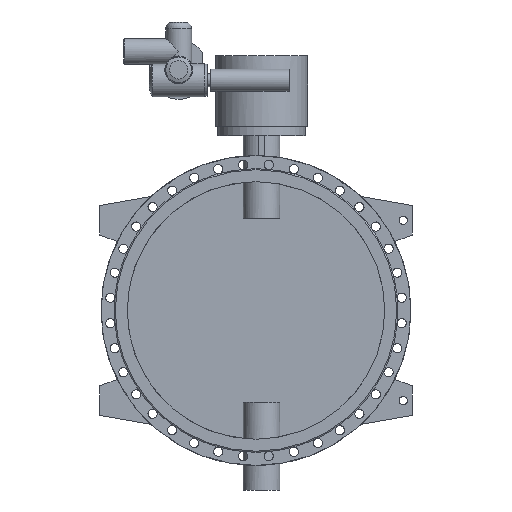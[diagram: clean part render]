
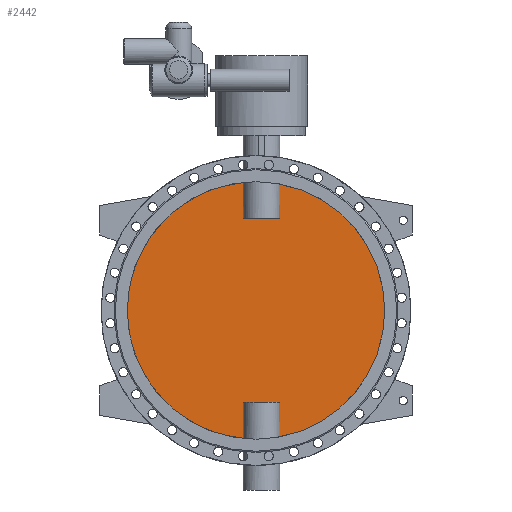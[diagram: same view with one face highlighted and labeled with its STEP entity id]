
A CAD part, front view. The second image highlights one B-rep face of the part: STEP entity #2442.
In plain terms, the highlighted planar face has unit normal (0, -1, 0).
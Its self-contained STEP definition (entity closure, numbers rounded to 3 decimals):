
#2442=ADVANCED_FACE('',(#4989),#4991,.F.);
#4989=FACE_BOUND('',#4990,.T.);
#4990=EDGE_LOOP('',(#6367,#6368,#6369,#6370,#6371,#6372,#6373,#6374));
#4991=PLANE('',#4992);
#4992=AXIS2_PLACEMENT_3D('',#4993,#4994,#4995);
#4993=CARTESIAN_POINT('',(0.,-5.,0.));
#4994=DIRECTION('',(0.,1.,0.));
#4995=DIRECTION('',(1.,0.,0.));
#6367=ORIENTED_EDGE('',*,*,#7057,.T.);
#6368=ORIENTED_EDGE('',*,*,#7062,.T.);
#6369=ORIENTED_EDGE('',*,*,#7063,.T.);
#6370=ORIENTED_EDGE('',*,*,#7064,.T.);
#6371=ORIENTED_EDGE('',*,*,#7059,.T.);
#6372=ORIENTED_EDGE('',*,*,#7065,.T.);
#6373=ORIENTED_EDGE('',*,*,#7066,.T.);
#6374=ORIENTED_EDGE('',*,*,#7067,.T.);
#7057=EDGE_CURVE('',#8243,#8244,#8245,.F.);
#7059=EDGE_CURVE('',#8248,#8246,#8249,.F.);
#7062=EDGE_CURVE('',#8244,#8253,#8254,.T.);
#7063=EDGE_CURVE('',#8253,#8255,#8256,.F.);
#7064=EDGE_CURVE('',#8255,#8248,#8257,.F.);
#7065=EDGE_CURVE('',#8246,#8258,#8259,.F.);
#7066=EDGE_CURVE('',#8258,#8260,#8261,.F.);
#7067=EDGE_CURVE('',#8260,#8243,#8262,.T.);
#8243=VERTEX_POINT('',#12922);
#8244=VERTEX_POINT('',#12923);
#8245=CIRCLE('',#12924,700.);
#8246=VERTEX_POINT('',#12928);
#8248=VERTEX_POINT('',#12990);
#8249=CIRCLE('',#12991,700.);
#8253=VERTEX_POINT('',#13125);
#8254=LINE('',#13126,#13127);
#8255=VERTEX_POINT('',#13129);
#8256=LINE('',#13130,#13131);
#8257=LINE('',#13133,#13134);
#8258=VERTEX_POINT('',#13136);
#8259=LINE('',#13137,#13138);
#8260=VERTEX_POINT('',#13140);
#8261=LINE('',#13141,#13142);
#8262=LINE('',#13144,#13145);
#12922=CARTESIAN_POINT('',(129.875,-5.,-687.846));
#12923=CARTESIAN_POINT('',(129.875,-5.,687.846));
#12924=AXIS2_PLACEMENT_3D('',#12925,#12926,#12927);
#12925=CARTESIAN_POINT('',(0.,-5.,0.));
#12926=DIRECTION('',(0.,1.,0.));
#12927=DIRECTION('',(0.186,0.,0.983));
#12928=CARTESIAN_POINT('',(-69.875,-5.,-696.504));
#12990=CARTESIAN_POINT('',(-69.875,-5.,696.504));
#12991=AXIS2_PLACEMENT_3D('',#12992,#12993,#12994);
#12992=CARTESIAN_POINT('',(0.,-5.,0.));
#12993=DIRECTION('',(0.,1.,0.));
#12994=DIRECTION('',(-0.1,0.,-0.995));
#13125=CARTESIAN_POINT('',(129.875,-5.,500.));
#13126=CARTESIAN_POINT('',(129.875,-5.,687.846));
#13127=VECTOR('',#13128,1.);
#13128=DIRECTION('',(0.,0.,-1.));
#13129=CARTESIAN_POINT('',(-69.875,-5.,500.));
#13130=CARTESIAN_POINT('',(-69.875,-5.,500.));
#13131=VECTOR('',#13132,1.);
#13132=DIRECTION('',(1.,0.,0.));
#13133=CARTESIAN_POINT('',(-69.875,-5.,696.504));
#13134=VECTOR('',#13135,1.);
#13135=DIRECTION('',(0.,0.,-1.));
#13136=CARTESIAN_POINT('',(-69.875,-5.,-500.));
#13137=CARTESIAN_POINT('',(-69.875,-5.,-500.));
#13138=VECTOR('',#13139,1.);
#13139=DIRECTION('',(0.,0.,-1.));
#13140=CARTESIAN_POINT('',(129.875,-5.,-500.));
#13141=CARTESIAN_POINT('',(129.875,-5.,-500.));
#13142=VECTOR('',#13143,1.);
#13143=DIRECTION('',(-1.,0.,0.));
#13144=CARTESIAN_POINT('',(129.875,-5.,-500.));
#13145=VECTOR('',#13146,1.);
#13146=DIRECTION('',(0.,0.,-1.));
